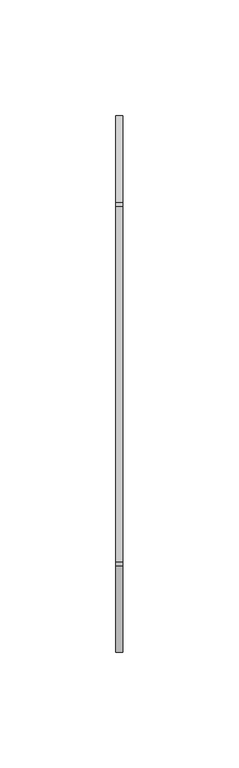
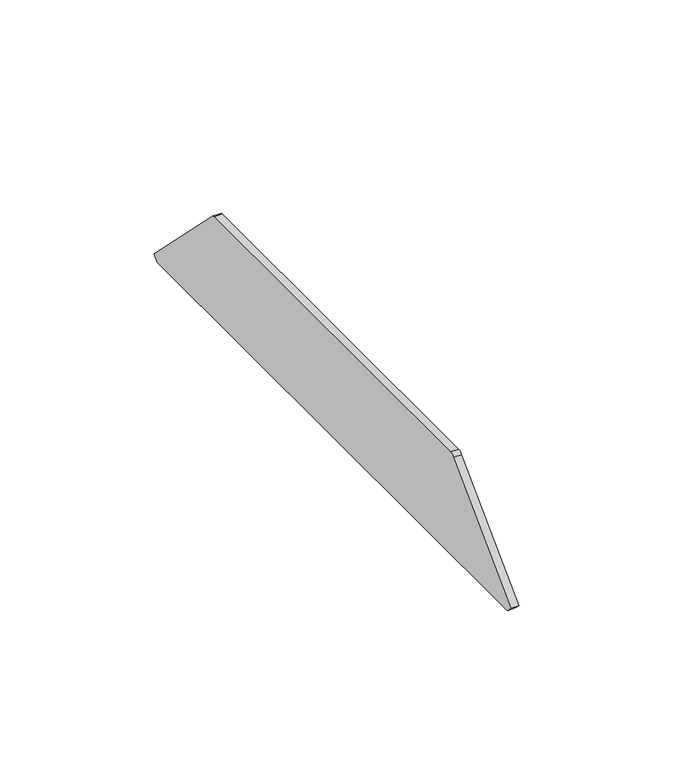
"""IFC4 building model written with IfcOpenShell, lengths in millimetres: cable carrier fitting geometry, Electrical_Installation_Hager_End-Piece : Electrical_Installation_Hager_End-Piece."""

from ifc_helpers import new_model, si_unit, point, frame, frame_2d, origin, place, context, project, spatial, polyline, circle_curve, trimmed, segment, composite_curve, outline, extrude, source, transform, mapped, element, save


def cable_carrier_fitting_67592bc5(model_context):
    return source(origin(), model_context, "Body", "SweptSolid", [
        extrude(outline(composite_curve([segment(polyline([(115.7213203, -17.8786797), (113.6, -20.0), (-113.6, -20.0), (-115.7213203, -17.8786797), (-78.5142136, 19.3284271)]), True, "CONTINUOUS"), segment(trimmed(circle_curve(frame_2d((-76.0170755, 17.4593317)), 3.1191692), [point((-78.5142136, 19.3284271))], [point((-76.7124549, 20.5))], False, "CARTESIAN"), True, "CONTINUOUS"), segment(polyline([(-76.7124549, 20.5), (76.7124549, 20.5)]), True, "CONTINUOUS"), segment(trimmed(circle_curve(frame_2d((75.5004738, 16.6648514)), 4.0220969), [point((76.7124549, 20.5))], [point((78.5142136, 19.3284271))], False, "CARTESIAN"), True, "CONTINUOUS"), segment(polyline([(78.5142136, 19.3284271), (115.7213203, -17.8786797)]), True, "CONTINUOUS")], self_intersect=False)), frame((0.0, 0.0, 0.0), z_axis=(1.0, 0.0, 0.0), x_axis=(0.0, 1.0, 0.0)), (0.0, 0.0, 1.0), 3.0),
    ])


if __name__ == "__main__":
    model = new_model("IFC4")
    model_context = context("Model", 3, world=origin())
    ifc_project = project(units=[si_unit("LENGTHUNIT", "METRE", prefix="MILLI")], contexts=[model_context])
    site = spatial("IfcSite", under=ifc_project)
    building = spatial("IfcBuilding", under=site)
    placement = place(None, origin())
    cable_carrier_fitting_shape = cable_carrier_fitting_67592bc5(model_context)
    element("IfcCableCarrierFitting", 1, ObjectType="Electrical_Installation_Hager_End-Piece : Electrical_Installation_Hager_End-Piece", at=placement, inside=building, context=model_context, shape_type="MappedRepresentation", body=[
        mapped(cable_carrier_fitting_shape, transform((0.0, 0.0, 0.0), x_axis=(1.0, 0.0, 0.0), y_axis=(0.0, 1.0, 0.0), z_axis=(0.0, 0.0, 1.0))),
    ])
    save(model, "model.ifc")
